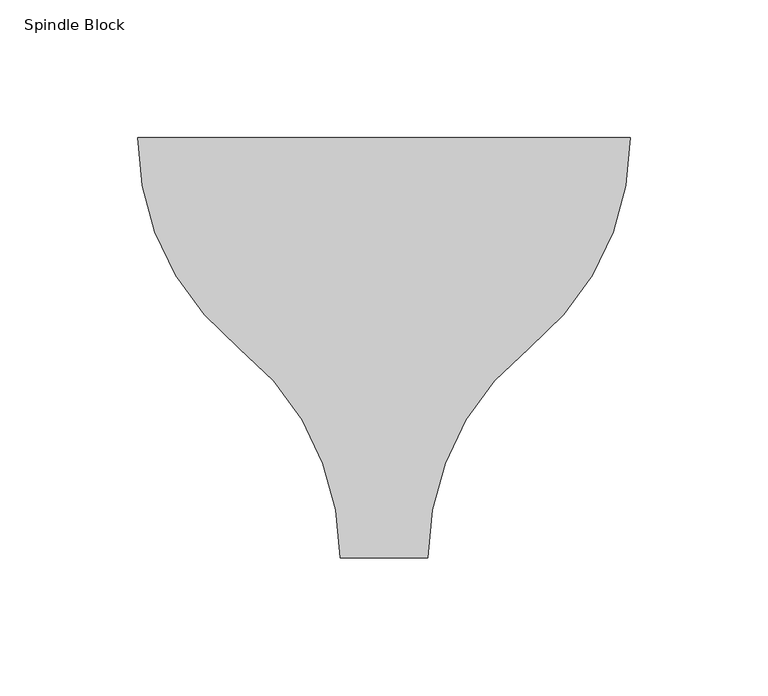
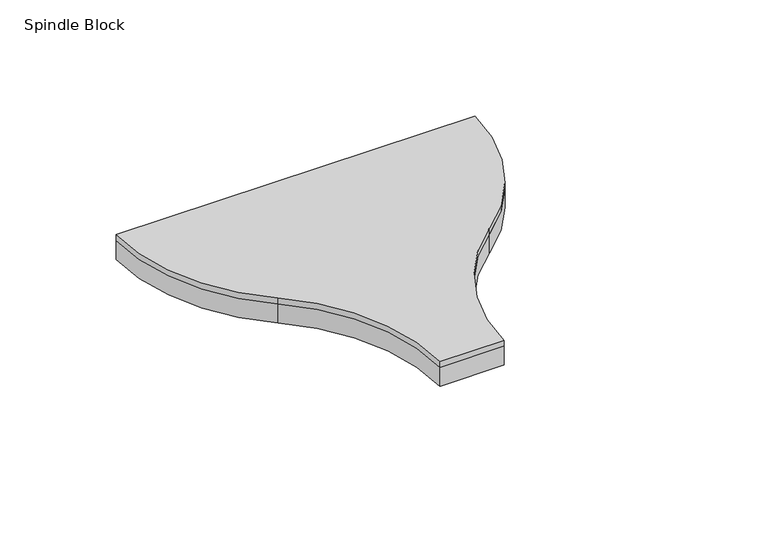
"""IFC4 building model written with IfcOpenShell, lengths in millimetres: proxy geometry, FilzFelt_Spindle_Block : Spindle Block."""

from ifc_helpers import new_model, si_unit, point, frame, frame_2d, origin, origin_with_axes, place, context, project, spatial, polyline, circle_curve, trimmed, segment, composite_curve, outline, extrude, source, transform, mapped, element, save


def spindle_block_caec9fa1(model_context):
    return source(origin(), model_context, "Body", "SweptSolid", [
        extrude(outline(composite_curve([segment(trimmed(circle_curve(frame_2d((-8.2776003, 0.0)), 97.5776355), [point((89.3000352, 0.0))], [point((52.6102676, -76.25))], False, "CARTESIAN"), True, "CONTINUOUS"), segment(trimmed(circle_curve(frame_2d((113.4981354, -152.5)), 97.5776355), [point((52.6102676, -76.25))], [point((15.9204999, -152.5))], True, "CARTESIAN"), True, "CONTINUOUS"), segment(polyline([(15.9204999, -152.5), (-15.9204999, -152.5)]), True, "CONTINUOUS"), segment(trimmed(circle_curve(frame_2d((-113.4981354, -152.5)), 97.5776355), [point((-15.9204999, -152.5))], [point((-52.6102676, -76.25))], True, "CARTESIAN"), True, "CONTINUOUS"), segment(trimmed(circle_curve(frame_2d((8.2776003, 0.0)), 97.5776355), [point((-52.6102676, -76.25))], [point((-89.3000352, 0.0))], False, "CARTESIAN"), True, "CONTINUOUS"), segment(polyline([(-89.3000352, 0.0), (89.3000352, 0.0)]), True, "CONTINUOUS")], self_intersect=False)), frame((0.0, 0.0, 10.0210937), z_axis=(0.0, 0.0, 1.0), x_axis=(1.0, 0.0, 0.0)), (0.0, 0.0, 1.0), 2.9765625),
        extrude(outline(composite_curve([segment(trimmed(circle_curve(frame_2d((-8.2776003, 0.0)), 97.5776355), [point((89.3000352, 0.0))], [point((52.6102676, -76.25))], False, "CARTESIAN"), True, "CONTINUOUS"), segment(trimmed(circle_curve(frame_2d((113.4981354, -152.5)), 97.5776355), [point((52.6102676, -76.25))], [point((15.9204999, -152.5))], True, "CARTESIAN"), True, "CONTINUOUS"), segment(polyline([(15.9204999, -152.5), (-15.9204999, -152.5)]), True, "CONTINUOUS"), segment(trimmed(circle_curve(frame_2d((-113.4981354, -152.5)), 97.5776355), [point((-15.9204999, -152.5))], [point((-52.6102676, -76.25))], True, "CARTESIAN"), True, "CONTINUOUS"), segment(trimmed(circle_curve(frame_2d((8.2776003, 0.0)), 97.5776355), [point((-52.6102676, -76.25))], [point((-89.3000352, 0.0))], False, "CARTESIAN"), True, "CONTINUOUS"), segment(polyline([(-89.3000352, 0.0), (89.3000352, 0.0)]), True, "CONTINUOUS")], self_intersect=False)), origin_with_axes(), (0.0, 0.0, 1.0), 10.0210938),
    ])


if __name__ == "__main__":
    model = new_model("IFC4")
    model_context = context("Model", 3, world=origin())
    ifc_project = project(units=[si_unit("LENGTHUNIT", "METRE", prefix="MILLI")], contexts=[model_context])
    site = spatial("IfcSite", under=ifc_project)
    building = spatial("IfcBuilding", under=site)
    placement = place(None, origin())
    spindle_block_shape = spindle_block_caec9fa1(model_context)
    element("IfcBuildingElementProxy", 1, Name="FilzFelt_Spindle_Block : Spindle Block", ObjectType="FilzFelt_Spindle_Block : Spindle Block", at=placement, inside=building, context=model_context, shape_type="MappedRepresentation", body=[
        mapped(spindle_block_shape, transform((0.0, 0.0, 0.0), x_axis=(1.0, 0.0, 0.0), y_axis=(0.0, 1.0, 0.0), z_axis=(0.0, 0.0, 1.0))),
    ])
    save(model, "model.ifc")
